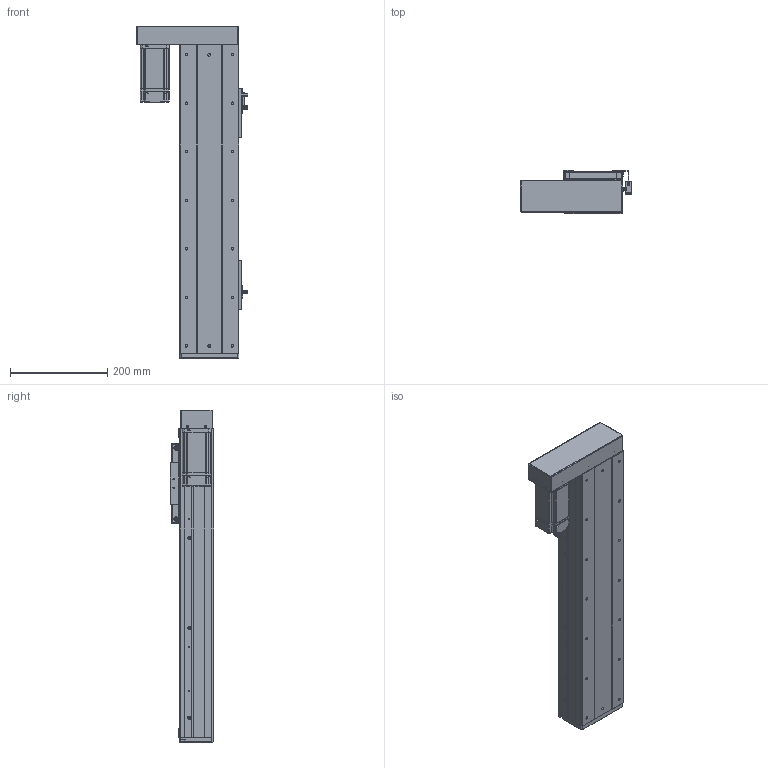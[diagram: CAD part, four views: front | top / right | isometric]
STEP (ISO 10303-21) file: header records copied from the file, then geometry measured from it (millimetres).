
FILE_DESCRIPTION (( 'STEP AP203' ), '1' );
FILE_NAME ('RY120F-L1620-300-LK.SLDASM_400.step', '2021-03-02T08:03:46', ( '盈信电脑' ), ( '东莞市道滘镇水果街19号' ), 'SwSTEP 2.0', 'SolidWorks 2012', '' );
FILE_SCHEMA (( 'CONFIG_CONTROL_DESIGN' ));
Products named in the file (18): RY120F-L1620-300-LK.SLDASM_400; 15; RY120F酘衵殏萇儂欶(200W); FY120F詩湍揤踡輸; RY120F酘衵殏萇儂啣(200W PCD70 M4); 覜茼ん672; 672嫖萇羲壽假蚾釱; RY80俋离覜茼え; RY120F-詩湍幗謫粣; RY120F綴裔啣(臏璃ㄘ; RY120F祥凄詩滅鳥裔; RY120F转折电机端支撑座; 滅袉蝶18-24; RT120F-臏賑輸奻釱; RY120F滅鳥詩湍-300-LK_400; RT120F-臏賑輸 16蹟譫; RT120F-300-倰第裔啣-LK_400; RT120F-300-倰第菁釱-LK_400
Assembly tree (23 placements, depth 2):
  RY120F-L1620-300-LK.SLDASM_400
    RT120F-300-倰第菁釱-LK_400
    RT120F-300-倰第裔啣-LK_400  x2
    RY120F滅鳥詩湍-300-LK_400
    RT120F-臏賑輸 16蹟譫
    RT120F-臏賑輸奻釱
    RY120F转折电机端支撑座
    RY120F祥凄詩滅鳥裔
    滅袉蝶18-24  x2
    RY120F綴裔啣(臏璃ㄘ
    RY120F-詩湍幗謫粣
    覜茼ん672  x3
    672嫖萇羲壽假蚾釱  x2
    RY80俋离覜茼え
    FY120F詩湍揤踡輸  x2
    15
    RY120F酘衵殏萇儂啣(200W PCD70 M4)
    RY120F酘衵殏萇儂欶(200W)
Bounding box: 229.9 x 89 x 684 mm (x, y, z)
Volume: 2747812.1 mm3; surface area: 986128.3 mm2
Topology: 23 solids, 23 shells, 2051 faces, 5501 edges, 3509 vertices
Faces by surface type: cylinder 908, plane 896, cone 221, bspline 26
Entity records: 57459 total; most frequent: CARTESIAN_POINT 10644, DIRECTION 9677, ORIENTED_EDGE 9058, EDGE_CURVE 4529, AXIS2_PLACEMENT_3D 3490, VERTEX_POINT 2953, VECTOR 2697, LINE 2697
